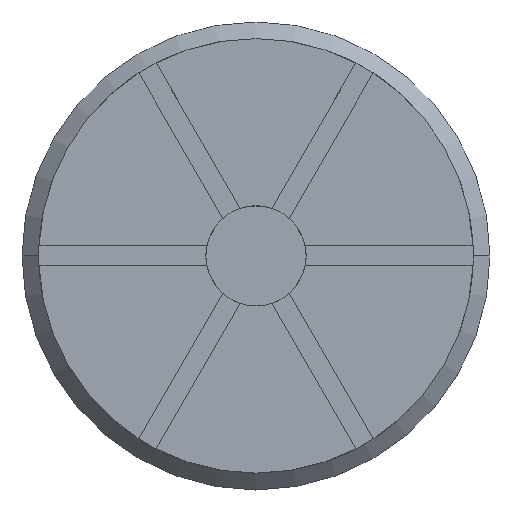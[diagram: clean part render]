
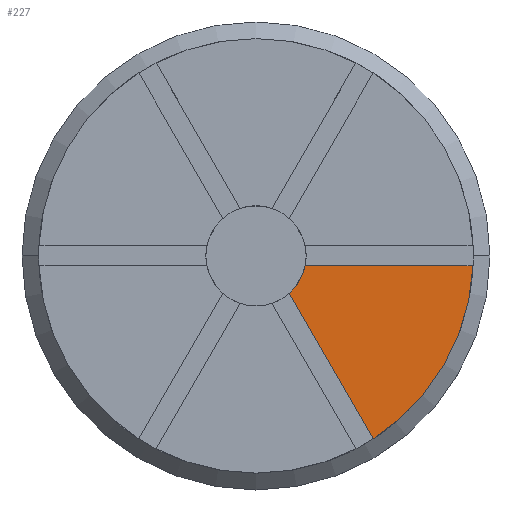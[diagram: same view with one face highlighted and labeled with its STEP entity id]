
A CAD part, top view. The second image highlights one B-rep face of the part: STEP entity #227.
In plain terms, the highlighted planar face has unit normal (0, 0, 1).
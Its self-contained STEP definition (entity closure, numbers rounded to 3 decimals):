
#149 = VERTEX_POINT ( 'NONE', #1230 ) ;
#150 = ORIENTED_EDGE ( 'NONE', *, *, #151, .T. ) ;
#151 = EDGE_CURVE ( 'NONE', #149, #152, #1160, .T. ) ;
#152 = VERTEX_POINT ( 'NONE', #1155 ) ;
#153 = ORIENTED_EDGE ( 'NONE', *, *, #154, .F. ) ;
#154 = EDGE_CURVE ( 'NONE', #250, #152, #1154, .T. ) ;
#155 = ORIENTED_EDGE ( 'NONE', *, *, #249, .F. ) ;
#227 = ADVANCED_FACE ( 'NONE', ( #1182 ), #1181, .T. ) ;
#228 = EDGE_LOOP ( 'NONE', ( #229, #150, #153, #155 ) ) ;
#229 = ORIENTED_EDGE ( 'NONE', *, *, #230, .F. ) ;
#230 = EDGE_CURVE ( 'NONE', #149, #246, #1176, .T. ) ;
#246 = VERTEX_POINT ( 'NONE', #1015 ) ;
#249 = EDGE_CURVE ( 'NONE', #246, #250, #1013, .T. ) ;
#250 = VERTEX_POINT ( 'NONE', #1502 ) ;
#1009 = DIRECTION ( 'NONE',  ( 1., 0., 0. ) ) ;
#1010 = DIRECTION ( 'NONE',  ( 0., 0., 1. ) ) ;
#1011 = CARTESIAN_POINT ( 'NONE',  ( 0., 0., 58. ) ) ;
#1012 = AXIS2_PLACEMENT_3D ( 'NONE', #1011, #1010, #1009 ) ;
#1013 = CIRCLE ( 'NONE', #1012, 30. ) ;
#1015 = CARTESIAN_POINT ( 'NONE',  ( 19.893, -22.456, 58. ) ) ;
#1151 = DIRECTION ( 'NONE',  ( 1., 0., 0. ) ) ;
#1152 = VECTOR ( 'NONE', #1151, 1000. ) ;
#1153 = CARTESIAN_POINT ( 'NONE',  ( -140., -6., 58. ) ) ;
#1154 = LINE ( 'NONE', #1153, #1152 ) ;
#1155 = CARTESIAN_POINT ( 'NONE',  ( 129.861, -6., 58. ) ) ;
#1156 = DIRECTION ( 'NONE',  ( 1., 0., 0. ) ) ;
#1157 = DIRECTION ( 'NONE',  ( 0., 0., 1. ) ) ;
#1158 = CARTESIAN_POINT ( 'NONE',  ( 0., 0., 58. ) ) ;
#1159 = AXIS2_PLACEMENT_3D ( 'NONE', #1158, #1157, #1156 ) ;
#1160 = CIRCLE ( 'NONE', #1159, 130. ) ;
#1173 = DIRECTION ( 'NONE',  ( -0.5, 0.866, 0. ) ) ;
#1174 = VECTOR ( 'NONE', #1173, 1000. ) ;
#1175 = CARTESIAN_POINT ( 'NONE',  ( 75.196, -118.244, 58. ) ) ;
#1176 = LINE ( 'NONE', #1175, #1174 ) ;
#1177 = DIRECTION ( 'NONE',  ( 1., 0., 0. ) ) ;
#1178 = DIRECTION ( 'NONE',  ( 0., 0., 1. ) ) ;
#1179 = CARTESIAN_POINT ( 'NONE',  ( 0., 0., 58. ) ) ;
#1180 = AXIS2_PLACEMENT_3D ( 'NONE', #1179, #1178, #1177 ) ;
#1181 = PLANE ( 'NONE',  #1180 ) ;
#1182 = FACE_OUTER_BOUND ( 'NONE', #228, .T. ) ;
#1230 = CARTESIAN_POINT ( 'NONE',  ( 70.127, -109.463, 58. ) ) ;
#1502 = CARTESIAN_POINT ( 'NONE',  ( 29.394, -6., 58. ) ) ;
